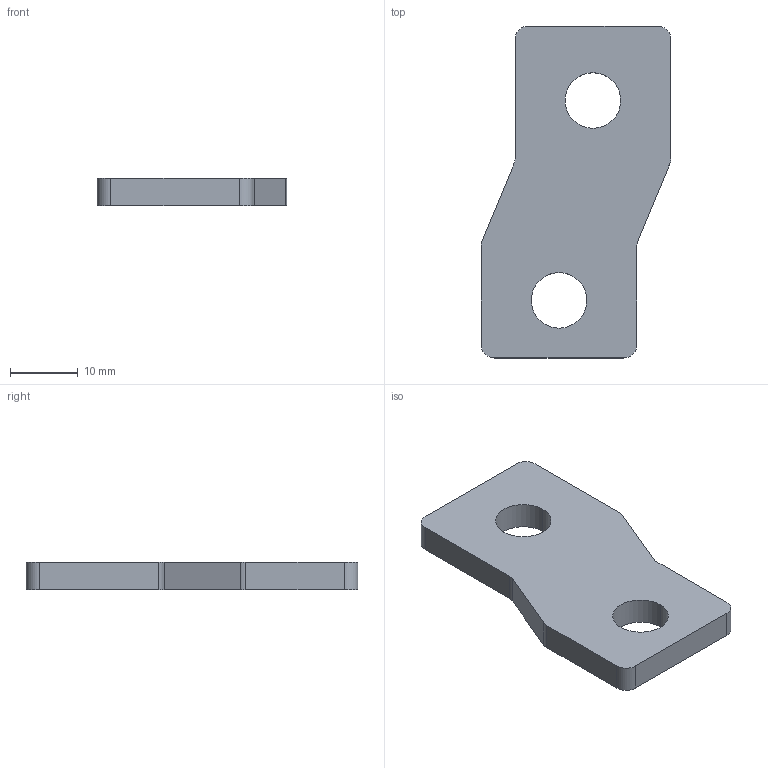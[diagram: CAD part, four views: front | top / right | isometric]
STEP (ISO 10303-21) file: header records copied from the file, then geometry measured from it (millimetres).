
FILE_DESCRIPTION((''),'2;1');
FILE_NAME('U2_4P_T_BUSBAR','2018-06-04T',('HHI'),(''),'PRO/ENGINEER BY PARAMETRIC TECHNOLOGY CORPORATION, 2012453','PRO/ENGINEER BY PARAMETRIC TECHNOLOGY CORPORATION, 2012453','');
FILE_SCHEMA(('CONFIG_CONTROL_DESIGN'));
Length unit declared in the file: millimetre
Products named in the file (1): U2_4P_T_BUSBAR
Bounding box: 28 x 49 x 4 mm (x, y, z)
Volume: 4071.8 mm3; surface area: 2812.1 mm2
Topology: 1 solids, 1 shells, 22 faces, 60 edges, 40 vertices
Faces by surface type: cylinder 12, plane 10
Entity records: 754 total; most frequent: DIRECTION 128, CARTESIAN_POINT 122, ORIENTED_EDGE 120, EDGE_CURVE 60, AXIS2_PLACEMENT_3D 46, VERTEX_POINT 40, VECTOR 36, LINE 36
